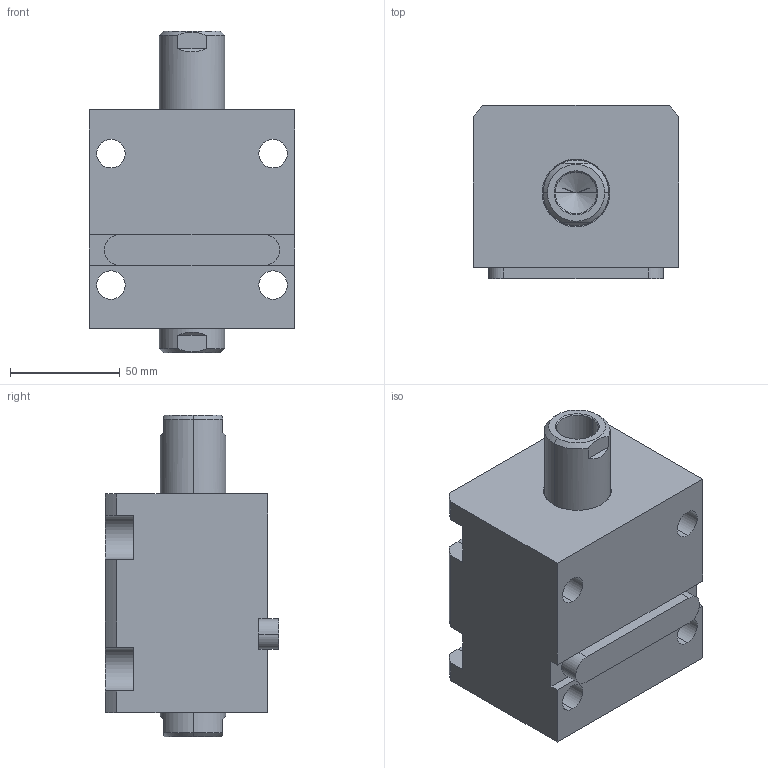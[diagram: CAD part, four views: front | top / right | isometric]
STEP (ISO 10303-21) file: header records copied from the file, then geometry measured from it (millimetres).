
FILE_DESCRIPTION (( 'STEP AP203' ), '1' );
FILE_NAME ('CHTB-LW50-25N.STEP', '2018-05-18T02:32:54', ( '' ), ( '' ), 'SwSTEP 2.0', 'SolidWorks 2015', '' );
FILE_SCHEMA (( 'CONFIG_CONTROL_DESIGN' ));
Length unit declared in the file: millimetre
Products named in the file (4): 掛极LW50-25N; CHTM-SDMA50QG; 活塞杆LW50-25N; CHTB-LW50-25N
Assembly tree (3 placements, depth 2):
  CHTB-LW50-25N
    掛极LW50-25N
    活塞杆LW50-25N
    CHTM-SDMA50QG
Bounding box: 94 x 79 x 147 mm (x, y, z)
Volume: 624708.7 mm3; surface area: 111067.2 mm2
Topology: 3 solids, 3 shells, 221 faces, 588 edges, 385 vertices
Faces by surface type: cylinder 102, plane 58, cone 31, torus 16, bspline 14
Entity records: 11831 total; most frequent: CARTESIAN_POINT 6126, ORIENTED_EDGE 1160, DIRECTION 1056, EDGE_CURVE 580, AXIS2_PLACEMENT_3D 416, VERTEX_POINT 385, EDGE_LOOP 257, LINE 224
